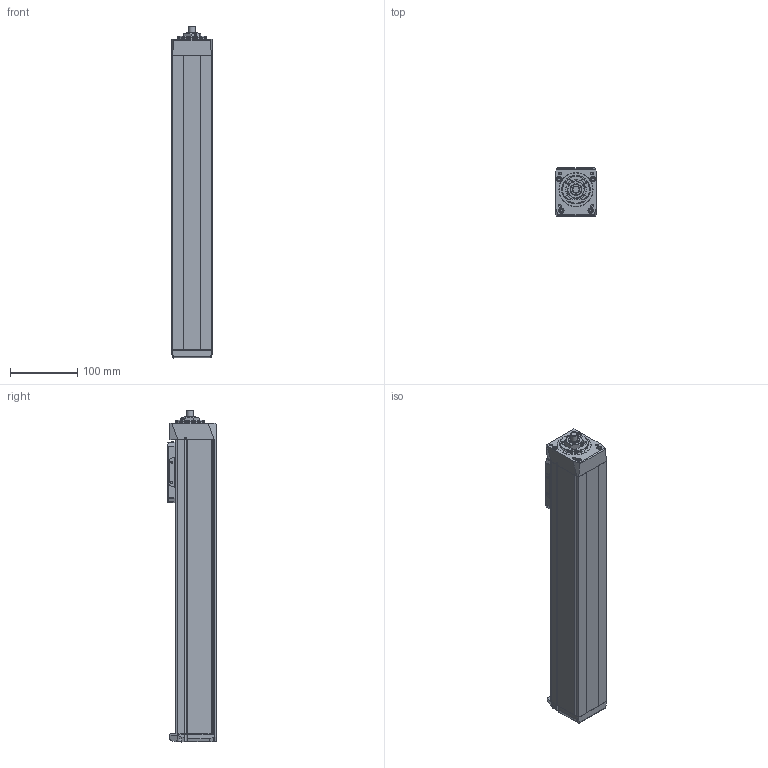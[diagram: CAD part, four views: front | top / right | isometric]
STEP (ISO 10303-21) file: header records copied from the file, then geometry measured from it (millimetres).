
FILE_DESCRIPTION(/* description */ ('STEP AP214'),/* implementation_level */ '2;1');
FILE_NAME(/* name */ 'MGBS 60 1210 300(0)',/* time_stamp */ '2023-04-17T13:19:16+02:00',/* author */ ('License CC BY-ND 4.0'),/* organization */ ('CADENAS'),/* preprocessor_version */ 'ST-DEVELOPER v19.3',/* originating_system */ 'PARTsolutions',/* authorisation */ ' ');
FILE_SCHEMA (('AUTOMOTIVE_DESIGN {1 0 10303 214 3 1 1}'));
Length unit declared in the file: millimetre
Products named in the file (6): MGBS 60 1210 300(0); MGBS 60 300_protection_strip; MGBS 60_carriage; MGBS 60_end_block; MGBS 60 300_profile; MGBS 60_drive_block
Assembly tree (5 placements, depth 2):
  MGBS 60 1210 300(0)
    MGBS 60 300_protection_strip
    MGBS 60_carriage
    MGBS 60_end_block
    MGBS 60 300_profile
    MGBS 60_drive_block
Bounding box: 60 x 72 x 492 mm (x, y, z)
Volume: 1700957.1 mm3; surface area: 221786.2 mm2
Topology: 5 solids, 5 shells, 694 faces, 1756 edges, 1135 vertices
Faces by surface type: plane 366, cylinder 144, cone 97, bspline 62, torus 23, sphere 2
Full cylindrical faces by diameter (mm): 2.459 x2, 2.46 x2, 3.242 x4, 4 x14, 4.134 x8, 4.8 x2, 5 x2, 5.5 x4, 7 x8, 7.6 x4, 8 x2, 10 x1, 11 x3, 23.8 x1, 30 x1, 42 x2, 50.2 x1
Entity records: 24817 total; most frequent: CARTESIAN_POINT 4104, DIRECTION 3372, ORIENTED_EDGE 3194, EDGE_CURVE 1597, AXIS2_PLACEMENT_3D 1197, VERTEX_POINT 1113, LINE 978, VECTOR 978
